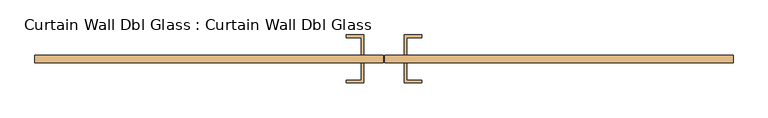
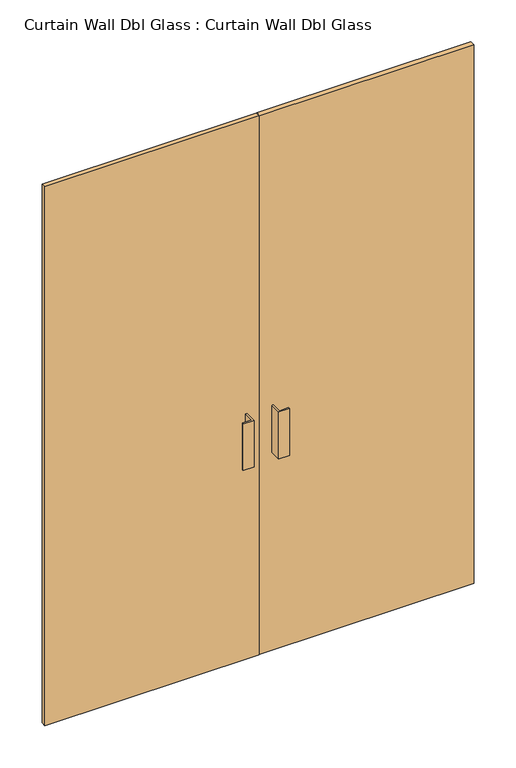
"""IFC4 building model written with IfcOpenShell, lengths in millimetres: door geometry, Curtain Wall Dbl Glass : Curtain Wall Dbl Glass."""

from ifc_helpers import new_model, si_unit, frame, origin, origin_with_axes, place, context, project, spatial, polyline, outline, extrude, source, transform, mapped, element, save


def curtain_wall_dbl_glass_curtain_wall_dbl_glass_821f5a63(model_context):
    return source(origin(), model_context, "Body", "SweptSolid", [
        extrude(outline(polyline([(-1.5875, -19.05), (-882.65, -19.05), (-882.65, 0.0), (-1.5875, 0.0), (-1.5875, -19.05)])), origin_with_axes(), (0.0, 0.0, 1.0), 2343.15),
        extrude(outline(polyline([(882.65, -19.05), (1.5875, -19.05), (1.5875, 0.0), (882.65, 0.0), (882.65, -19.05)])), origin_with_axes(), (0.0, 0.0, 1.0), 2343.15),
        extrude(outline(polyline([(-50.8, 50.8), (-50.8, 0.0), (-57.15, 0.0), (-57.15, 44.45), (-95.25, 44.45), (-95.25, 50.8), (-50.8, 50.8)])), frame((0.0, 0.0, 863.6), z_axis=(0.0, 0.0, 1.0), x_axis=(1.0, 0.0, 0.0)), (0.0, 0.0, 1.0), 203.2),
        extrude(outline(polyline([(50.8, 50.8), (95.25, 50.8), (95.25, 44.45), (57.15, 44.45), (57.15, 0.0), (50.8, 0.0), (50.8, 50.8)])), frame((0.0, 0.0, 863.6), z_axis=(0.0, 0.0, 1.0), x_axis=(1.0, 0.0, 0.0)), (0.0, 0.0, 1.0), 203.2),
        extrude(outline(polyline([(-50.8, -69.85), (-95.25, -69.85), (-95.25, -63.5), (-57.15, -63.5), (-57.15, -19.05), (-50.8, -19.05), (-50.8, -69.85)])), frame((0.0, 0.0, 863.6), z_axis=(0.0, 0.0, 1.0), x_axis=(1.0, 0.0, 0.0)), (0.0, 0.0, 1.0), 203.2),
        extrude(outline(polyline([(50.8, -69.85), (50.8, -19.05), (57.15, -19.05), (57.15, -63.5), (95.25, -63.5), (95.25, -69.85), (50.8, -69.85)])), frame((0.0, 0.0, 863.6), z_axis=(0.0, 0.0, 1.0), x_axis=(1.0, 0.0, 0.0)), (0.0, 0.0, 1.0), 203.2),
    ])


if __name__ == "__main__":
    model = new_model("IFC4")
    model_context = context("Model", 3, world=origin())
    ifc_project = project(units=[si_unit("LENGTHUNIT", "METRE", prefix="MILLI")], contexts=[model_context])
    site = spatial("IfcSite", under=ifc_project)
    building = spatial("IfcBuilding", under=site)
    placement = place(None, origin())
    curtain_wall_dbl_glass_curtain_wall_dbl_glass_shape = curtain_wall_dbl_glass_curtain_wall_dbl_glass_821f5a63(model_context)
    element("IfcDoor", 1, ObjectType="Curtain Wall Dbl Glass : Curtain Wall Dbl Glass", at=placement, inside=building, context=model_context, shape_type="MappedRepresentation", body=[
        mapped(curtain_wall_dbl_glass_curtain_wall_dbl_glass_shape, transform((0.0, 0.0, 0.0), x_axis=(1.0, 0.0, 0.0), y_axis=(0.0, 1.0, 0.0), z_axis=(0.0, 0.0, 1.0))),
    ])
    save(model, "model.ifc")
